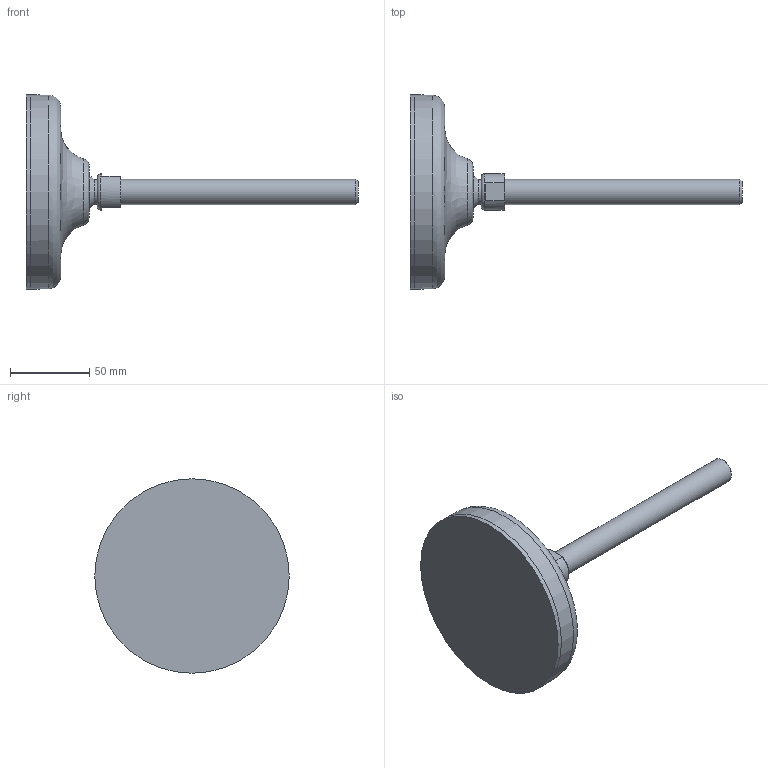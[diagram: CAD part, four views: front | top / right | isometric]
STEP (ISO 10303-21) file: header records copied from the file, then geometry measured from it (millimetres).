
FILE_DESCRIPTION(('STEP AP203'),'2;1');
FILE_NAME('10163.stp','2015-03-23T17:10:32',(''),(''),'2008.1.107','THINKDESIGN','');
FILE_SCHEMA(('CONFIG_CONTROL_DESIGN'));
Length unit declared in the file: millimetre
Bounding box: 210.03 x 123 x 123 mm (x, y, z)
Volume: 327617.7 mm3; surface area: 66405.2 mm2
Topology: 5 solids, 5 shells, 29 faces, 66 edges, 50 vertices
Faces by surface type: plane 15, bspline 10, cylinder 4
Full cylindrical faces by diameter (mm): 15.5 x1, 16 x1, 23 x1, 123 x1
Entity records: 1725 total; most frequent: CARTESIAN_POINT 875, DIRECTION 146, ORIENTED_EDGE 128, AXIS2_PLACEMENT_3D 65, EDGE_CURVE 64, VERTEX_POINT 46, CIRCLE 46, EDGE_LOOP 30
